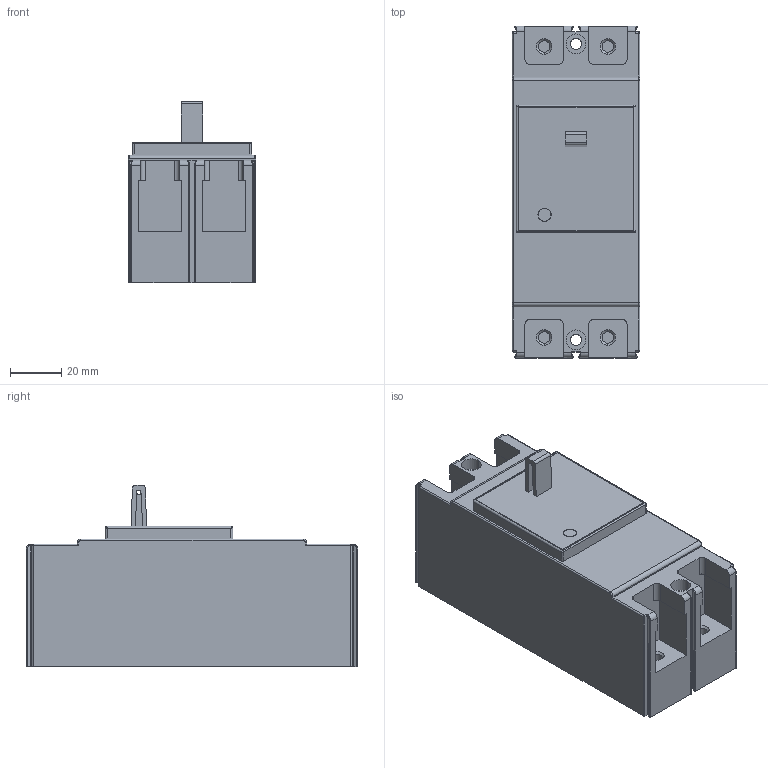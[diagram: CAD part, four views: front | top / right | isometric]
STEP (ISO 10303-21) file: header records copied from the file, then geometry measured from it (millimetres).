
FILE_DESCRIPTION (( 'STEP AP203' ), '1' );
FILE_NAME ('BA Type 2P.STEP', '2018-01-04T01:21:45', ( '' ), ( '' ), 'SwSTEP 2.0', 'SolidWorks 2015', '' );
FILE_SCHEMA (( 'CONFIG_CONTROL_DESIGN' ));
Length unit declared in the file: millimetre
Products named in the file (1): BA Type 2P
Bounding box: 50 x 130 x 71.02 mm (x, y, z)
Volume: 301712 mm3; surface area: 38336.4 mm2
Topology: 1 solids, 1 shells, 219 faces, 607 edges, 391 vertices
Faces by surface type: plane 101, cylinder 81, bspline 17, cone 12, torus 4, sphere 4
Entity records: 7356 total; most frequent: CARTESIAN_POINT 1760, ORIENTED_EDGE 1198, DIRECTION 1125, EDGE_CURVE 599, VERTEX_POINT 391, VECTOR 381, LINE 381, AXIS2_PLACEMENT_3D 372
